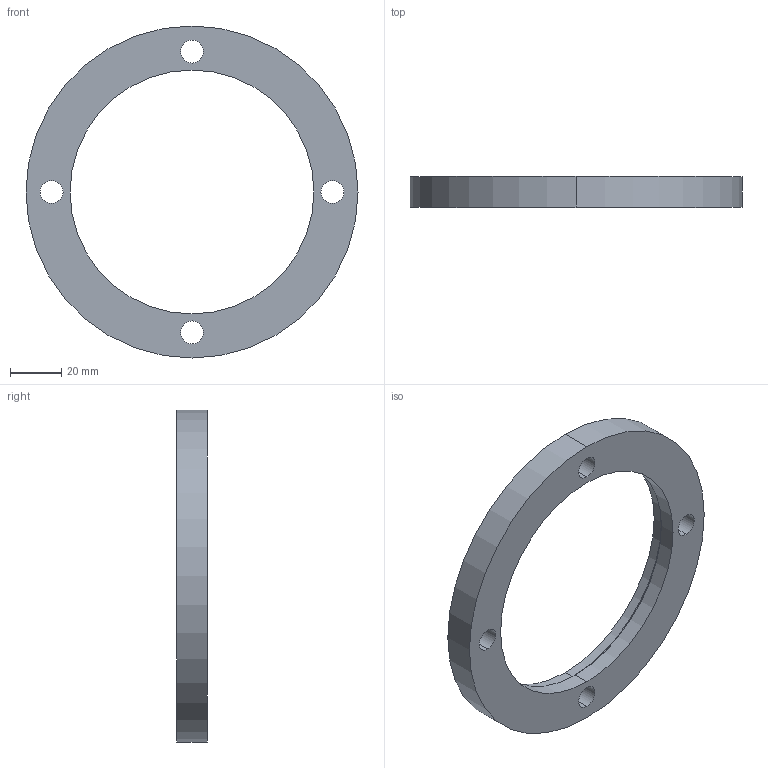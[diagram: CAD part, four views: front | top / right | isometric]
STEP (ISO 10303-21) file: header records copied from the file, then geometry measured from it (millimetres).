
FILE_DESCRIPTION (( 'STEP AP214' ), '1' );
FILE_NAME ('W5UEF63.STEP', '2021-01-25T16:26:37', ( '' ), ( '' ), 'SwSTEP 2.0', 'SolidWorks 2020', '' );
FILE_SCHEMA (( 'AUTOMOTIVE_DESIGN' ));
Length unit declared in the file: millimetre
Products named in the file (1): W5UEF63
Bounding box: 130 x 12 x 130 mm (x, y, z)
Volume: 67818.1 mm3; surface area: 21422.9 mm2
Topology: 1 solids, 1 shells, 19 faces, 46 edges, 30 vertices
Faces by surface type: cylinder 14, plane 3, torus 2
Entity records: 630 total; most frequent: DIRECTION 118, CARTESIAN_POINT 96, ORIENTED_EDGE 92, AXIS2_PLACEMENT_3D 52, EDGE_CURVE 46, CIRCLE 32, EDGE_LOOP 30, VERTEX_POINT 30
